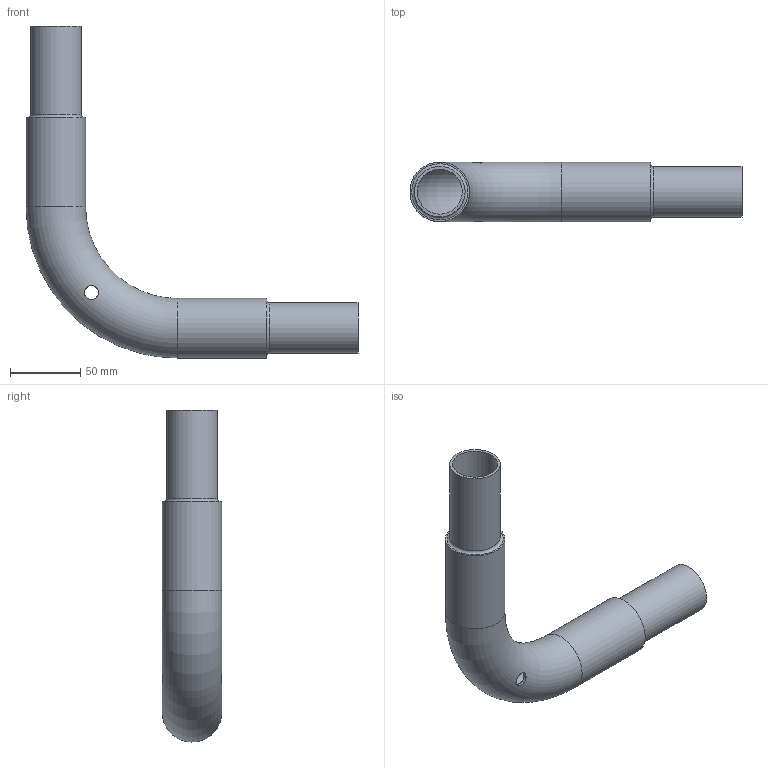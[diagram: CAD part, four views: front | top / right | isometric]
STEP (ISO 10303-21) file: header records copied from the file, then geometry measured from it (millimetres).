
FILE_DESCRIPTION((''),'2;1');
FILE_NAME('S:\Användarkataloger\AndreasA\Mina Inventor filer\Räcken\STEP\hörnskarv_42.stp','2010-09-07T13:42:56',('AndreasA'),(''),'Autodesk Inventor 2011','Autodesk Inventor 2011','');
FILE_SCHEMA(('AUTOMOTIVE_DESIGN { 1 0 10303 214 1 1 1 1 }'));
Length unit declared in the file: millimetre
Products named in the file (1): hörnskarv_42
Bounding box: 236.2 x 42.4 x 236.2 mm (x, y, z)
Volume: 95074.4 mm3; surface area: 95650 mm2
Topology: 1 solids, 1 shells, 20 faces, 39 edges, 23 vertices
Faces by surface type: cylinder 10, torus 6, plane 4
Full cylindrical faces by diameter (mm): 10 x2, 32 x2, 36 x2, 38.4 x2, 42.4 x2
Entity records: 676 total; most frequent: CARTESIAN_POINT 291, DIRECTION 78, ORIENTED_EDGE 44, EDGE_LOOP 44, AXIS2_PLACEMENT_3D 39, FACE_BOUND 24, VERTEX_POINT 22, EDGE_CURVE 22
